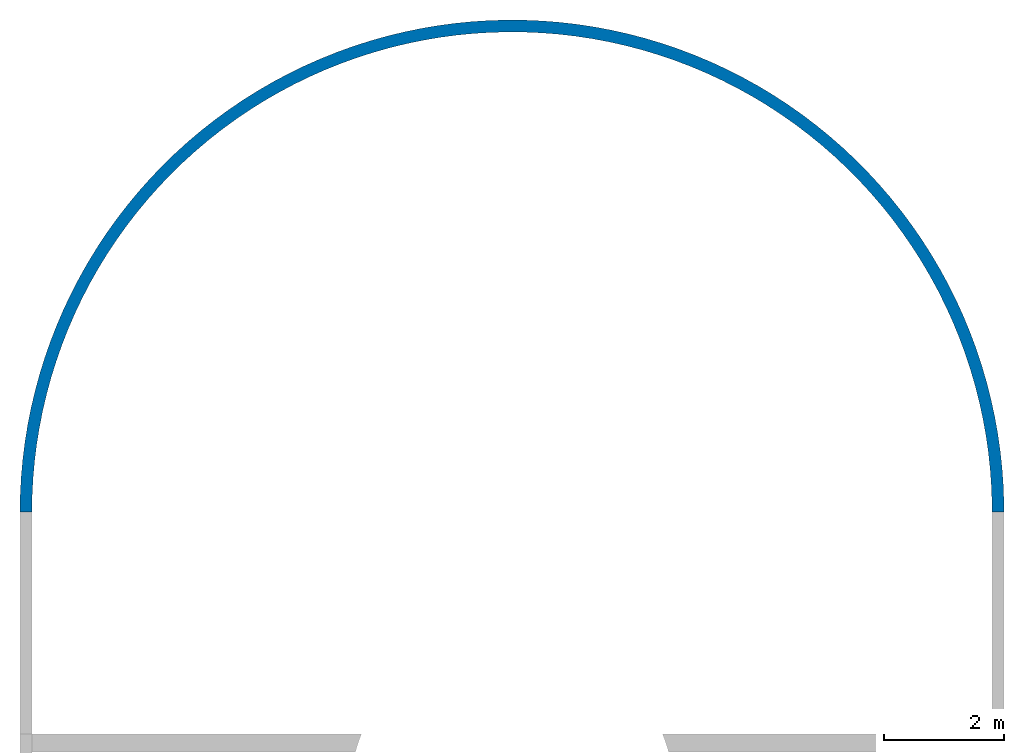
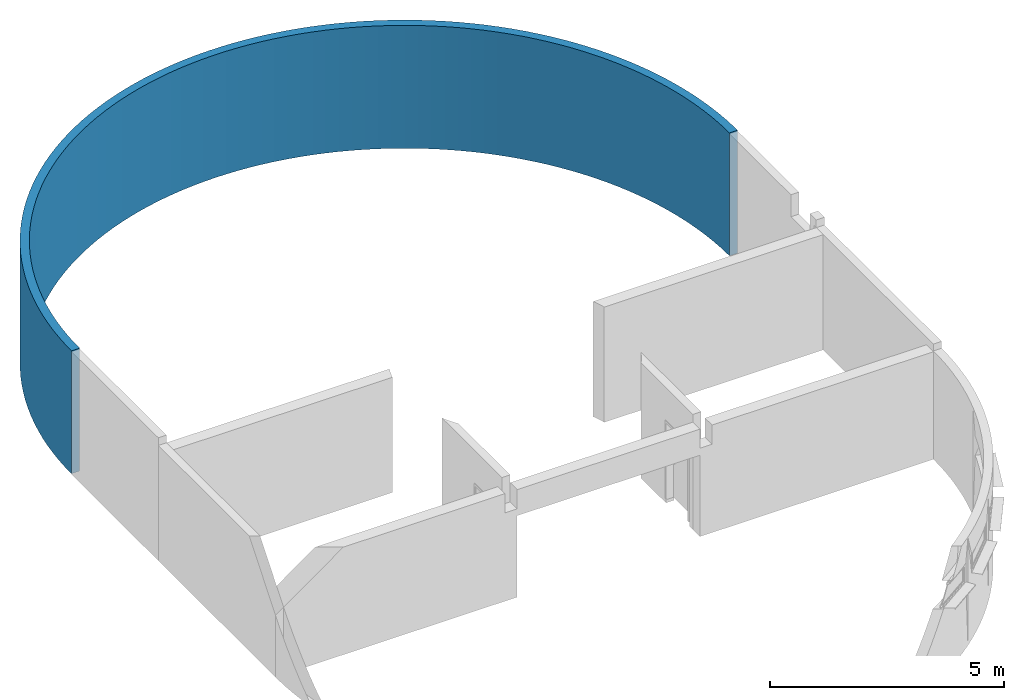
# One storey, part 6 of 6: 1 wall.
"""IFC4 building model written with IfcOpenShell, lengths in millimetres."""

from ifc_helpers import new_model, entity, si_unit, converted_unit, derived_unit, direction, frame, origin_with_axes, place, context, subcontext, project, spatial, polygons, material, constituent, constituent_set, type_object, element, save


model = new_model("IFC4")

# Units and contexts
model_context = context("Model", 3, precision=0.01, world=origin_with_axes(), true_north=direction((0.0, 1.0)))
body_context = subcontext(model_context, "Body", "Model", "MODEL_VIEW")
ifc_project = project(units=[si_unit("LENGTHUNIT", "METRE", prefix="MILLI"), si_unit("AREAUNIT", "SQUARE_METRE"), si_unit("VOLUMEUNIT", "CUBIC_METRE"), converted_unit("PLANEANGLEUNIT", "DEGREE", entity("IfcPlaneAngleMeasure", 0.0174532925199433), si_unit("PLANEANGLEUNIT", "RADIAN"), dimensions=[0, 0, 0, 0, 0, 0, 0]), converted_unit("TIMEUNIT", "Year", entity("IfcTimeMeasure", 31557600.0), si_unit("TIMEUNIT", "SECOND"), dimensions=[0, 0, 1, 0, 0, 0, 0]), si_unit("MASSUNIT", "GRAM", prefix="KILO"), si_unit("THERMODYNAMICTEMPERATUREUNIT", "DEGREE_CELSIUS"), si_unit("LUMINOUSINTENSITYUNIT", "LUMEN"), si_unit("ENERGYUNIT", "JOULE", prefix="MEGA"), derived_unit("THERMALCONDUCTANCEUNIT", [(si_unit("POWERUNIT", "WATT"), 1), (si_unit("LENGTHUNIT", "METRE"), -1), (si_unit("THERMODYNAMICTEMPERATUREUNIT", "KELVIN"), -1)]), derived_unit("SPECIFICHEATCAPACITYUNIT", [(si_unit("ENERGYUNIT", "JOULE"), 1), (si_unit("MASSUNIT", "GRAM", prefix="KILO"), -1), (si_unit("THERMODYNAMICTEMPERATUREUNIT", "KELVIN"), -1)]), derived_unit("MASSDENSITYUNIT", [(si_unit("MASSUNIT", "GRAM", prefix="KILO"), 1), (si_unit("VOLUMEUNIT", "CUBIC_METRE"), -1)])], contexts=[model_context])

# Site, building, storey
site_placement = place(None, origin_with_axes())
site = spatial("IfcSite", under=ifc_project, at=site_placement, Name="Exteriér", CompositionType="ELEMENT")
building_placement = place(site_placement, origin_with_axes())
building = spatial("IfcBuilding", under=site, at=building_placement, Name="Univerzitní lezecké centrum", CompositionType="ELEMENT")
storey_placement = place(building_placement, frame((0.0, 0.0, 6400.0), z_axis=(0.0, 0.0, 1.0), x_axis=(1.0, 0.0, 0.0)))
storey = spatial("IfcBuildingStorey", under=building, at=storey_placement, Name="3.NP", CompositionType="ELEMENT", Elevation=6400.0)

# Wall
ifc_material = material(Name="Beton vyztužený - vnější svislé kce")
ifc_constituent = constituent(ifc_material, Name="Beton vyztužený - vnější svislé kce")
ifc_constituent_set = constituent_set(constituents=[ifc_constituent], Name="!Vnější betonová stěna 200 mm")
wall_type = type_object("IfcWallType", Name="!Vnější betonová stěna 200 mm 200", PredefinedType="NOTDEFINED")
wall_placement = place(storey_placement, frame((10449.85164885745, 8399.999999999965, -100.0000000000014), z_axis=(0.0, 0.0, 1.0), x_axis=(0.0, 1.0, 0.0)))
element("IfcWall", 1, at=wall_placement, inside=storey, type_object=wall_type, material=ifc_constituent_set, Name="St01", PredefinedType="NOTDEFINED", context=body_context, shape_type="Tessellation", body=[
    polygons([(145.5579959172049, -199.9999999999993, 0.0), (145.5579959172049, -199.9999999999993, 3200.000000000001), (0.0, -199.9999999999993, 3200.000000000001), (0.0, -199.9999999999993, 0.0), (436.4905859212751, -189.6680701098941, 0.0), (436.4905859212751, -189.6680701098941, 3200.000000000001), (142.0078008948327, 0.0, 3200.000000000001), (0.0, 0.0, 3200.000000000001), (0.0, 0.0, 0.0), (142.0078008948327, 0.0, 0.0), (726.8732015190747, -169.0172284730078, 0.0), (726.8732015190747, -169.0172284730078, 3200.000000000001), (425.8444740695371, 10.07993160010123, 3200.000000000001), (425.8444740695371, 10.07993160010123, 0.0), (1016.339963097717, -138.0734949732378, 0.0), (1016.339963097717, -138.0734949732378, 3200.000000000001), (709.1445868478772, 30.227094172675, 3200.000000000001), (709.1445868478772, 30.227094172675, 0.0), (1304.526145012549, -96.87585845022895, 0.0), (1304.526145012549, -96.87585845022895, 3200.000000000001), (991.5511835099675, 60.41610246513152, 3200.000000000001), (991.5511835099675, 60.41610246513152, 0.0), (1591.068635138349, -45.47622757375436, 0.0), (1591.068635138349, -45.47622757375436, 3200.000000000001), (1272.708434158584, 100.6089185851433, 3200.000000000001), (1272.708434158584, 100.6089185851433, 0.0), (1875.606392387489, 16.06063456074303, 0.0), (1875.606392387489, 16.06063456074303, 3200.000000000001), (1552.262083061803, 150.7548999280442, 3200.000000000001), (1552.262083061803, 150.7548999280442, 0.0), (2157.780901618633, 87.65719203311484, 0.0), (2157.780901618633, 87.65719203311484, 3200.000000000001), (1829.859895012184, 210.7908629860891, 3200.000000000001), (1829.859895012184, 210.7908629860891, 0.0), (2437.236625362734, 169.2232337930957, 0.0), (2437.236625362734, 169.2232337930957, 3200.000000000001), (2105.152099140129, 280.6411629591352, 3200.000000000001), (2105.152099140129, 280.6411629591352, 0.0), (2713.621451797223, 260.6559873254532, 0.0), (2713.621451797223, 260.6559873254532, 3200.000000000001), (2377.791829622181, 360.217789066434, 3200.000000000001), (2377.791829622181, 360.217789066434, 0.0), (2986.587138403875, 361.8402481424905, 0.0), (2986.587138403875, 361.8402481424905, 3200.000000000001), (2647.435562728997, 449.4204754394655, 3200.000000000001), (2647.435562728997, 449.4204754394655, 0.0), (3255.78975075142, 472.6485249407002, 0.0), (3255.78975075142, 472.6485249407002, 3200.000000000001), (2913.743549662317, 548.1368274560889, 3200.000000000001), (2913.743549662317, 548.1368274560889, 0.0), (3520.890095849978, 592.9412002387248, 0.0), (3520.890095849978, 592.9412002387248, 3200.000000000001), (3176.380244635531, 656.2424633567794, 3200.000000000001), (3176.380244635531, 656.2424633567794, 0.0), (3781.554149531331, 722.5667062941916, 0.0), (3781.554149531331, 722.5667062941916, 3200.000000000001), (3435.014727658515, 773.6011709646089, 3200.000000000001), (3435.014727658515, 773.6011709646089, 0.0), (4037.453477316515, 861.3617160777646, 0.0), (4037.453477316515, 861.3617160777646, 3200.000000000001), (3689.321121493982, 900.0650793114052, 3200.000000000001), (3689.321121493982, 900.0650793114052, 0.0), (4288.265648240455, 1009.151349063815, 0.0), (4288.265648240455, 1009.151349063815, 3200.000000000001), (3938.979002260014, 1035.474844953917, 3200.000000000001), (3938.979002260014, 1035.474844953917, 0.0), (4533.674641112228, 1165.749391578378, 0.0), (4533.674641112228, 1165.749391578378, 3200.000000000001), (4183.673803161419, 1179.659852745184, 3200.000000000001), (4183.673803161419, 1179.659852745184, 0.0), (4773.371242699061, 1330.958531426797, 0.0), (4773.371242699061, 1330.958531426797, 3200.000000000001), (4423.097210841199, 1332.438430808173, 3200.000000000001), (4423.097210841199, 1332.438430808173, 0.0), (5007.053437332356, 1504.570606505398, 0.0), (5007.053437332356, 1504.570606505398, 3200.000000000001), (4656.947553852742, 1493.618079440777, 3200.000000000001), (4656.947553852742, 1493.618079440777, 0.0), (5234.426787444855, 1686.366867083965, 0.0), (5234.426787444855, 1686.366867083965, 3200.000000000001), (4884.930182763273, 1662.995713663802, 3200.000000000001), (4884.930182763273, 1662.995713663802, 0.0), (5455.204804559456, 1876.118251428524, 0.0), (5455.204804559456, 1876.118251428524, 3200.000000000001), (5106.757841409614, 1840.357919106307, 3200.000000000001), (5106.757841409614, 1840.357919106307, 0.0), (5669.109310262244, 2073.585674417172, 0.0), (5669.109310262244, 2073.585674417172, 3200.000000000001), (5322.151028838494, 2025.481220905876, 3200.000000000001), (5322.151028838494, 2025.481220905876, 0.0), (5875.870786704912, 2278.520328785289, 0.0), (5875.870786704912, 2278.520328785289, 3200.000000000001), (5530.838351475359, 2218.132365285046, 3200.000000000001), (5530.838351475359, 2218.132365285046, 0.0), (6075.228716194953, 2490.663998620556, 0.0), (6075.228716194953, 2490.663998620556, 3200.000000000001), (5732.556865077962, 2418.06861344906, 3200.000000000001), (5732.556865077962, 2418.06861344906, 0.0), (6266.931909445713, 2709.749384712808, 0.0), (6266.931909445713, 2709.749384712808, 3200.000000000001), (5927.052406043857, 2625.038047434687, 3200.000000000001), (5927.052406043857, 2625.038047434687, 0.0), (6450.738822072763, 2935.50044134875, 0.0), (6450.738822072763, 2935.50044134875, 3200.000000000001), (6114.079911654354, 2838.779887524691, 3200.000000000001), (6114.079911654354, 2838.779887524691, 0.0), (6626.417858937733, 3167.632724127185, 0.0), (6626.417858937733, 3167.632724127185, 3200.000000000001), (6293.403728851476, 3059.024820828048, 3200.000000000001), (6293.403728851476, 3059.024820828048, 0.0), (6793.747665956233, 3405.853748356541, 0.0), (6793.747665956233, 3405.853748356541, 3200.000000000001), (6464.797911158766, 3285.495340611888, 3200.000000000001), (6464.797911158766, 3285.495340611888, 0.0), (6952.51740900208, 3649.863357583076, 0.0), (6952.51740900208, 3649.863357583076, 3200.000000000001), (6628.046503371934, 3517.906095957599, 3200.000000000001), (6628.046503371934, 3517.906095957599, 0.0), (7102.52703955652, 3899.354101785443, 0.0), (7102.52703955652, 3899.354101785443, 3200.000000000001), (6782.943813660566, 3755.964251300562, 3200.000000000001), (6782.943813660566, 3755.964251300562, 0.0), (7243.587546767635, 4154.011624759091, 0.0), (7243.587546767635, 4154.011624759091, 3200.000000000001), (6929.29467273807, 3999.369855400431, 3200.000000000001), (6929.29467273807, 3999.369855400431, 0.0), (7375.521195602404, 4413.51506020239, 0.0), (7375.521195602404, 4413.51506020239, 3200.000000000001), (7066.914679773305, 4247.816219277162, 3200.000000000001), (7066.914679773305, 4247.816219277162, 0.0), (7498.161750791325, 4677.537436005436, 0.0), (7498.161750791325, 4677.537436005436, 3200.000000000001), (7195.630434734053, 4500.990302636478, 3200.000000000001), (7195.630434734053, 4500.990302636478, 0.0), (7611.354686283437, 4945.746086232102, 0.0), (7611.354686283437, 4945.746086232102, 3200.000000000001), (7315.279756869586, 4758.573108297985, 3200.000000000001), (7315.279756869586, 4758.573108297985, 0.0), (7714.957379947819, 5217.803070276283, 0.0), (7714.957379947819, 5217.803070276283, 3200.000000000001), (7425.711889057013, 5020.240084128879, 3200.000000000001), (7425.711889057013, 5020.240084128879, 0.0), (7808.83929327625, 5493.365598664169, 0.0), (7808.83929327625, 5493.365598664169, 3200.000000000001), (7526.78768775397, 5285.66153197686, 3200.000000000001), (7526.78768775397, 5285.66153197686, 0.0), (7892.882135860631, 5772.086464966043, 0.0), (7892.882135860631, 5772.086464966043, 3200.000000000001), (7618.379798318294, 5554.503023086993, 3200.000000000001), (7618.379798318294, 5554.503023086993, 0.0), (7966.980014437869, 6053.614483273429, 0.0), (7966.980014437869, 6053.614483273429, 3200.000000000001), (7700.372815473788, 5826.425819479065, 3200.000000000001), (7700.372815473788, 5826.425819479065, 0.0), (8031.039566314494, 6337.59493069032, 0.0), (8031.039566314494, 6337.59493069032, 3200.000000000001), (7772.66342871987, 6101.087300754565, 3200.000000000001), (7772.66342871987, 6101.087300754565, 0.0), (8084.980077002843, 6623.669994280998, 0.0), (8084.980077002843, 6623.669994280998, 3200.000000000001), (7835.160552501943, 6378.141395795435, 3200.000000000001), (7835.160552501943, 6378.141395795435, 0.0), (8128.733581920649, 6911.479221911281, 0.0), (8128.733581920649, 6911.479221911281, 3200.000000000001), (7887.785440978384, 6657.23901881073, 3200.000000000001), (7887.785440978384, 6657.23901881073, 0.0), (8162.244952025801, 7200.659976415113, 0.0), (8162.244952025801, 7200.659976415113, 3200.000000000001), (7930.471787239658, 6938.028509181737, 3200.000000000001), (7930.471787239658, 6938.028509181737, 0.0), (8185.471963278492, 7490.847892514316, 0.0), (8185.471963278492, 7490.847892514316, 3200.000000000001), (7963.165806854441, 7220.15607455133, 3200.000000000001), (7963.165806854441, 7220.15607455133, 0.0), (8198.385349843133, 7781.677335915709, 0.0), (8198.385349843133, 7781.677335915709, 3200.000000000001), (7985.826305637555, 7503.266236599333, 3200.000000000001), (7985.826305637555, 7503.266236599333, 0.0), (8200.96884096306, 8072.78186400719, 0.0), (8200.96884096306, 8072.78186400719, 3200.000000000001), (7998.424731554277, 7787.002278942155, 3200.000000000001), (7998.424731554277, 7787.002278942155, 0.0), (8193.219181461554, 8363.794687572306, 0.0), (8193.219181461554, 8363.794687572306, 3200.000000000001), (8000.945210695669, 8071.006696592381, 3200.000000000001), (8000.945210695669, 8071.006696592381, 0.0), (8175.146135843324, 8654.349132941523, 0.0), (8175.146135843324, 8654.349132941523, 3200.000000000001), (7993.384567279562, 8354.921646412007, 3200.000000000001), (7993.384567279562, 8354.921646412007, 0.0), (8146.77247599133, 8944.07910399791, 0.0), (8146.77247599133, 8944.07910399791, 3200.000000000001), (7975.752327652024, 8638.38939799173, 3200.000000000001), (7975.752327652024, 8638.38939799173, 0.0), (8108.133952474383, 9232.619543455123, 0.0), (8108.133952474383, 9232.619543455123, 3200.000000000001), (7948.070708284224, 8921.052784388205, 3200.000000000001), (7948.070708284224, 8921.052784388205, 0.0), (8059.27924950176, 9519.606892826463, 0.0), (8059.27924950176, 9519.606892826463, 3200.000000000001), (7910.374587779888, 9202.555652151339, 3200.000000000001), (7910.374587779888, 9202.555652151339, 0.0), (8000.269923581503, 9804.679550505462, 0.0), (8000.269923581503, 9804.679550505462, 3200.000000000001), (7862.711462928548, 9482.543310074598, 3200.000000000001), (7862.711462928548, 9482.543310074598, 0.0), (7931.180325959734, 10087.47832738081, 0.0), (7931.180325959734, 10087.47832738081, 3200.000000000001), (7805.141388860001, 9760.662976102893, 3200.000000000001), (7805.141388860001, 9760.662976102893, 0.0), (7852.097508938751, 10367.64689941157, 0.0), (7852.097508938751, 10367.64689941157, 3200.000000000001), (7737.736903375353, 10036.56422183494, 3200.000000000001), (7737.736903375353, 10036.56422183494, 0.0), (7763.121116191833, 10644.83225659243, 0.0), (7763.121116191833, 10644.83225659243, 3200.000000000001), (7660.58293555, 10309.89941406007, 3200.000000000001), (7660.58293555, 10309.89941406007, 0.0), (7664.363257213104, 10918.68514774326, 0.0), (7664.363257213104, 10918.68514774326, 3200.000000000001), (7573.776698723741, 10580.3241527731, 3200.000000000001), (7573.776698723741, 10580.3241527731, 0.0), (7555.948366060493, 11188.86052056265, 0.0), (7555.948366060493, 11188.86052056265, 3200.000000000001), (7477.427568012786, 10847.49770511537, 3200.000000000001), (7477.427568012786, 10847.49770511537, 0.0), (7438.013044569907, 11455.01795639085, 0.0), (7438.013044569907, 11455.01795639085, 3200.000000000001), (7371.656942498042, 11111.08343469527, 3200.000000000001), (7371.656942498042, 11111.08343469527, 0.0), (7310.70589023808, 11716.82209913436, 0.0), (7310.70589023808, 11716.82209913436, 3200.000000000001), (7256.598092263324, 11370.74922574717, 3200.000000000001), (7256.598092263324, 11370.74922574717, 0.0), (7174.187308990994, 11973.94307781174, 0.0), (7174.187308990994, 11973.94307781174, 3200.000000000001), (7132.395990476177, 11626.1679015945, 3200.000000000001), (7132.395990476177, 11626.1679015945, 0.0), (7028.629313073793, 12226.05692218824, 0.0), (7028.629313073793, 12226.05692218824, 3200.000000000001), (6999.207130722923, 11877.0176368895, 3200.000000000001), (6999.207130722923, 11877.0176368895, 0.0), (6874.215304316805, 12472.84597097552, 0.0), (6874.215304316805, 12472.84597097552, 3200.000000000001), (6857.199329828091, 12122.98236311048, 3200.000000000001), (6857.199329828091, 12122.98236311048, 0.0), (6711.139843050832, 12713.99927208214, 0.0), (6711.139843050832, 12713.99927208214, 3200.000000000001), (6706.551516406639, 12363.75216680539, 3200.000000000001), (6706.551516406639, 12363.75216680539, 0.0), (6539.608402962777, 12949.21297441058, 0.0), (6539.608402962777, 12949.21297441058, 3200.000000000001), (6547.453505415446, 12599.02368008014, 3200.000000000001), (6547.453505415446, 12599.02368008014, 0.0), (6359.837112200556, 13178.19071070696, 0.0), (6359.837112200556, 13178.19071070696, 3200.000000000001), (6380.105758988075, 12828.50046283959, 3200.000000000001), (6380.105758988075, 12828.50046283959, 0.0), (6172.052481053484, 13400.64397098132, 0.0), (6172.052481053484, 13400.64397098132, 3200.000000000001), (6204.719133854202, 13051.89337629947, 3200.000000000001), (6204.719133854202, 13051.89337629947, 0.0), (5976.491116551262, 13616.29246602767, 0.0), (5976.491116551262, 13616.29246602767, 3200.000000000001), (6021.514615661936, 13268.92094729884, 3200.000000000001), (6021.514615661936, 13268.92094729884, 0.0), (5773.399424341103, 13824.86448058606, 0.0), (5773.399424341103, 13824.86448058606, 3200.000000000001), (5830.723040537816, 13479.30972295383, 3200.000000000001), (5830.723040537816, 13479.30972295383, 0.0), (5563.033298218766, 14026.09721570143, 0.0), (5563.033298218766, 14026.09721570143, 3200.000000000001), (5632.584804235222, 13682.79461520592, 3200.000000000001), (5632.584804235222, 13682.79461520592, 0.0), (5345.657797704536, 14219.73711984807, 0.0), (5345.657797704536, 14219.73711984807, 3200.000000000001), (5427.34955923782, 13879.11923483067, 3200.000000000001), (5427.34955923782, 13879.11923483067, 0.0), (5121.546814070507, 14405.54020840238, 0.0), (5121.546814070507, 14405.54020840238, 3200.000000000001), (5215.275900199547, 14068.03621448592, 3200.000000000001), (5215.275900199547, 14068.03621448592, 0.0), (4890.982725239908, 14583.27237106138, 0.0), (4890.982725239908, 14583.27237106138, 3200.000000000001), (4996.63103811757, 14249.30752039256, 3200.000000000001), (4996.63103811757, 14249.30752039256, 0.0), (4654.256039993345, 14752.70966681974, 0.0), (4654.256039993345, 14752.70966681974, 3200.000000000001), (4771.690463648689, 14422.704752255, 3200.000000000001), (4771.690463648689, 14422.704752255, 0.0), (4411.665031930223, 14913.63860613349, 0.0), (4411.665031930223, 14913.63860613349, 3200.000000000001), (4540.737599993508, 14588.00943104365, 3200.000000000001), (4540.737599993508, 14588.00943104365, 0.0), (4163.515363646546, 15065.85641991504, 0.0), (4163.515363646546, 15065.85641991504, 3200.000000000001), (4304.063445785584, 14745.01327427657, 3200.000000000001), (4304.063445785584, 14745.01327427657, 0.0), (3910.119701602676, 15209.17131502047, 0.0), (3910.119701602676, 15209.17131502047, 3200.000000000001), (4061.966208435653, 14893.51845845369, 3200.000000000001), (4061.966208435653, 14893.51845845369, 0.0), (3651.797322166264, 15343.40271590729, 0.0), (3651.797322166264, 15343.40271590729, 3200.000000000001), (3814.750928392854, 15033.33786831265, 3200.000000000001), (3814.750928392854, 15033.33786831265, 0.0), (3388.873709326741, 15468.38149215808, 0.0), (3388.873709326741, 15468.38149215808, 3200.000000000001), (3562.729094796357, 15164.29533259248, 3200.000000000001), (3562.729094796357, 15164.29533259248, 0.0), (3121.680144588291, 15583.95017158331, 0.0), (3121.680144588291, 15583.95017158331, 3200.000000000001), (3306.218253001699, 15286.22584600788, 3200.000000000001), (3306.218253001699, 15286.22584600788, 0.0), (2850.553289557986, 15689.96313863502, 0.0), (2850.553289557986, 15689.96313863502, 3200.000000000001), (3045.541604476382, 15398.97577715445, 3200.000000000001), (3045.541604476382, 15398.97577715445, 0.0), (2575.834761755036, 15786.28681788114, 0.0), (2575.834761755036, 15786.28681788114, 3200.000000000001), (2781.027599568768, 15502.40306208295, 3200.000000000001), (2781.027599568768, 15502.40306208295, 0.0), (2297.870704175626, 15872.79984230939, 0.0), (2297.870704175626, 15872.79984230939, 3200.000000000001), (2513.009523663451, 15596.37738329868, 3200.000000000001), (2513.009523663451, 15596.37738329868, 0.0), (2017.011349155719, 15949.39320624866, 0.0), (2017.011349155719, 15949.39320624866, 3200.000000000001), (2241.825077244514, 15680.78033396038, 3200.000000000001), (2241.825077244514, 15680.78033396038, 0.0), (1733.610577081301, 16015.97040271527, 0.0), (1733.610577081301, 16015.97040271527, 3200.000000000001), (1967.815950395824, 15755.50556707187, 3200.000000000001), (1967.815950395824, 15755.50556707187, 0.0), (1448.025470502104, 16072.44754501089, 0.0), (1448.025470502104, 16072.44754501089, 3200.000000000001), (1691.32739227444, 15820.45892947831, 3200.000000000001), (1691.32739227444, 15820.45892947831, 0.0), (1160.615864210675, 16118.75347241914, 0.0), (1160.615864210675, 16118.75347241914, 3200.000000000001), (1412.707776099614, 15875.55858049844, 3200.000000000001), (1412.707776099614, 15875.55858049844, 0.0), (871.743891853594, 16154.82983986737, 0.0), (871.743891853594, 16154.82983986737, 3200.000000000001), (1132.308160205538, 15920.73509504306, 3200.000000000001), (1132.308160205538, 15920.73509504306, 0.0), (581.7735296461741, 16180.63119144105, 0.0), (581.7735296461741, 16180.63119144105, 3200.000000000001), (850.4818457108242, 15955.93155109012, 3200.000000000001), (850.4818457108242, 15955.93155109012, 0.0), (291.0701377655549, 16196.12501765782, 0.0), (291.0701377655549, 16196.12501765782, 3200.000000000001), (567.5839313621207, 15981.10360140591, 3200.000000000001), (567.5839313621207, 15981.10360140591, 0.0), (0.0, 16199.99999999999, 0.0), (0.0, 16199.99999999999, 3200.000000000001), (283.9708661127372, 15996.21952942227, 3200.000000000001), (283.9708661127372, 15996.21952942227, 0.0), (0.0, 15999.99999999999, 0.0), (0.0, 15999.99999999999, 3200.000000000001)], [[[1, 2, 3, 4]], [[5, 6, 2, 1]], [[2, 7, 8, 3]], [[4, 3, 8, 9]], [[10, 1, 4, 9]], [[11, 12, 6, 5]], [[6, 13, 7, 2]], [[14, 5, 1, 10]], [[7, 10, 9, 8]], [[15, 16, 12, 11]], [[12, 17, 13, 6]], [[18, 11, 5, 14]], [[13, 14, 10, 7]], [[19, 20, 16, 15]], [[16, 21, 17, 12]], [[22, 15, 11, 18]], [[17, 18, 14, 13]], [[23, 24, 20, 19]], [[20, 25, 21, 16]], [[26, 19, 15, 22]], [[21, 22, 18, 17]], [[27, 28, 24, 23]], [[24, 29, 25, 20]], [[30, 23, 19, 26]], [[25, 26, 22, 21]], [[31, 32, 28, 27]], [[28, 33, 29, 24]], [[34, 27, 23, 30]], [[29, 30, 26, 25]], [[35, 36, 32, 31]], [[32, 37, 33, 28]], [[38, 31, 27, 34]], [[33, 34, 30, 29]], [[39, 40, 36, 35]], [[36, 41, 37, 32]], [[42, 35, 31, 38]], [[37, 38, 34, 33]], [[43, 44, 40, 39]], [[40, 45, 41, 36]], [[46, 39, 35, 42]], [[41, 42, 38, 37]], [[47, 48, 44, 43]], [[44, 49, 45, 40]], [[50, 43, 39, 46]], [[45, 46, 42, 41]], [[51, 52, 48, 47]], [[48, 53, 49, 44]], [[54, 47, 43, 50]], [[49, 50, 46, 45]], [[55, 56, 52, 51]], [[52, 57, 53, 48]], [[58, 51, 47, 54]], [[53, 54, 50, 49]], [[59, 60, 56, 55]], [[56, 61, 57, 52]], [[62, 55, 51, 58]], [[57, 58, 54, 53]], [[63, 64, 60, 59]], [[60, 65, 61, 56]], [[66, 59, 55, 62]], [[61, 62, 58, 57]], [[67, 68, 64, 63]], [[64, 69, 65, 60]], [[70, 63, 59, 66]], [[65, 66, 62, 61]], [[71, 72, 68, 67]], [[68, 73, 69, 64]], [[74, 67, 63, 70]], [[69, 70, 66, 65]], [[75, 76, 72, 71]], [[72, 77, 73, 68]], [[78, 71, 67, 74]], [[73, 74, 70, 69]], [[79, 80, 76, 75]], [[76, 81, 77, 72]], [[82, 75, 71, 78]], [[77, 78, 74, 73]], [[83, 84, 80, 79]], [[80, 85, 81, 76]], [[86, 79, 75, 82]], [[81, 82, 78, 77]], [[87, 88, 84, 83]], [[84, 89, 85, 80]], [[90, 83, 79, 86]], [[85, 86, 82, 81]], [[91, 92, 88, 87]], [[88, 93, 89, 84]], [[94, 87, 83, 90]], [[89, 90, 86, 85]], [[95, 96, 92, 91]], [[92, 97, 93, 88]], [[98, 91, 87, 94]], [[93, 94, 90, 89]], [[99, 100, 96, 95]], [[96, 101, 97, 92]], [[102, 95, 91, 98]], [[97, 98, 94, 93]], [[103, 104, 100, 99]], [[100, 105, 101, 96]], [[106, 99, 95, 102]], [[101, 102, 98, 97]], [[107, 108, 104, 103]], [[104, 109, 105, 100]], [[110, 103, 99, 106]], [[105, 106, 102, 101]], [[111, 112, 108, 107]], [[108, 113, 109, 104]], [[114, 107, 103, 110]], [[109, 110, 106, 105]], [[115, 116, 112, 111]], [[112, 117, 113, 108]], [[118, 111, 107, 114]], [[113, 114, 110, 109]], [[119, 120, 116, 115]], [[116, 121, 117, 112]], [[122, 115, 111, 118]], [[117, 118, 114, 113]], [[123, 124, 120, 119]], [[120, 125, 121, 116]], [[126, 119, 115, 122]], [[121, 122, 118, 117]], [[127, 128, 124, 123]], [[124, 129, 125, 120]], [[130, 123, 119, 126]], [[125, 126, 122, 121]], [[131, 132, 128, 127]], [[128, 133, 129, 124]], [[134, 127, 123, 130]], [[129, 130, 126, 125]], [[135, 136, 132, 131]], [[132, 137, 133, 128]], [[138, 131, 127, 134]], [[133, 134, 130, 129]], [[139, 140, 136, 135]], [[136, 141, 137, 132]], [[142, 135, 131, 138]], [[137, 138, 134, 133]], [[143, 144, 140, 139]], [[140, 145, 141, 136]], [[146, 139, 135, 142]], [[141, 142, 138, 137]], [[147, 148, 144, 143]], [[144, 149, 145, 140]], [[150, 143, 139, 146]], [[145, 146, 142, 141]], [[151, 152, 148, 147]], [[148, 153, 149, 144]], [[154, 147, 143, 150]], [[149, 150, 146, 145]], [[155, 156, 152, 151]], [[152, 157, 153, 148]], [[158, 151, 147, 154]], [[153, 154, 150, 149]], [[159, 160, 156, 155]], [[156, 161, 157, 152]], [[162, 155, 151, 158]], [[157, 158, 154, 153]], [[163, 164, 160, 159]], [[160, 165, 161, 156]], [[166, 159, 155, 162]], [[161, 162, 158, 157]], [[167, 168, 164, 163]], [[164, 169, 165, 160]], [[170, 163, 159, 166]], [[165, 166, 162, 161]], [[171, 172, 168, 167]], [[168, 173, 169, 164]], [[174, 167, 163, 170]], [[169, 170, 166, 165]], [[175, 176, 172, 171]], [[172, 177, 173, 168]], [[178, 171, 167, 174]], [[173, 174, 170, 169]], [[179, 180, 176, 175]], [[176, 181, 177, 172]], [[182, 175, 171, 178]], [[177, 178, 174, 173]], [[183, 184, 180, 179]], [[180, 185, 181, 176]], [[186, 179, 175, 182]], [[181, 182, 178, 177]], [[187, 188, 184, 183]], [[184, 189, 185, 180]], [[190, 183, 179, 186]], [[185, 186, 182, 181]], [[191, 192, 188, 187]], [[188, 193, 189, 184]], [[194, 187, 183, 190]], [[189, 190, 186, 185]], [[195, 196, 192, 191]], [[192, 197, 193, 188]], [[198, 191, 187, 194]], [[193, 194, 190, 189]], [[199, 200, 196, 195]], [[196, 201, 197, 192]], [[202, 195, 191, 198]], [[197, 198, 194, 193]], [[203, 204, 200, 199]], [[200, 205, 201, 196]], [[206, 199, 195, 202]], [[201, 202, 198, 197]], [[207, 208, 204, 203]], [[204, 209, 205, 200]], [[210, 203, 199, 206]], [[205, 206, 202, 201]], [[211, 212, 208, 207]], [[208, 213, 209, 204]], [[214, 207, 203, 210]], [[209, 210, 206, 205]], [[215, 216, 212, 211]], [[212, 217, 213, 208]], [[218, 211, 207, 214]], [[213, 214, 210, 209]], [[219, 220, 216, 215]], [[216, 221, 217, 212]], [[222, 215, 211, 218]], [[217, 218, 214, 213]], [[223, 224, 220, 219]], [[220, 225, 221, 216]], [[226, 219, 215, 222]], [[221, 222, 218, 217]], [[227, 228, 224, 223]], [[224, 229, 225, 220]], [[230, 223, 219, 226]], [[225, 226, 222, 221]], [[231, 232, 228, 227]], [[228, 233, 229, 224]], [[234, 227, 223, 230]], [[229, 230, 226, 225]], [[235, 236, 232, 231]], [[232, 237, 233, 228]], [[238, 231, 227, 234]], [[233, 234, 230, 229]], [[239, 240, 236, 235]], [[236, 241, 237, 232]], [[242, 235, 231, 238]], [[237, 238, 234, 233]], [[243, 244, 240, 239]], [[240, 245, 241, 236]], [[246, 239, 235, 242]], [[241, 242, 238, 237]], [[247, 248, 244, 243]], [[244, 249, 245, 240]], [[250, 243, 239, 246]], [[245, 246, 242, 241]], [[251, 252, 248, 247]], [[248, 253, 249, 244]], [[254, 247, 243, 250]], [[249, 250, 246, 245]], [[255, 256, 252, 251]], [[252, 257, 253, 248]], [[258, 251, 247, 254]], [[253, 254, 250, 249]], [[259, 260, 256, 255]], [[256, 261, 257, 252]], [[262, 255, 251, 258]], [[257, 258, 254, 253]], [[263, 264, 260, 259]], [[260, 265, 261, 256]], [[266, 259, 255, 262]], [[261, 262, 258, 257]], [[267, 268, 264, 263]], [[264, 269, 265, 260]], [[270, 263, 259, 266]], [[265, 266, 262, 261]], [[271, 272, 268, 267]], [[268, 273, 269, 264]], [[274, 267, 263, 270]], [[269, 270, 266, 265]], [[275, 276, 272, 271]], [[272, 277, 273, 268]], [[278, 271, 267, 274]], [[273, 274, 270, 269]], [[279, 280, 276, 275]], [[276, 281, 277, 272]], [[282, 275, 271, 278]], [[277, 278, 274, 273]], [[283, 284, 280, 279]], [[280, 285, 281, 276]], [[286, 279, 275, 282]], [[281, 282, 278, 277]], [[287, 288, 284, 283]], [[284, 289, 285, 280]], [[290, 283, 279, 286]], [[285, 286, 282, 281]], [[291, 292, 288, 287]], [[288, 293, 289, 284]], [[294, 287, 283, 290]], [[289, 290, 286, 285]], [[295, 296, 292, 291]], [[292, 297, 293, 288]], [[298, 291, 287, 294]], [[293, 294, 290, 289]], [[299, 300, 296, 295]], [[296, 301, 297, 292]], [[302, 295, 291, 298]], [[297, 298, 294, 293]], [[303, 304, 300, 299]], [[300, 305, 301, 296]], [[306, 299, 295, 302]], [[301, 302, 298, 297]], [[307, 308, 304, 303]], [[304, 309, 305, 300]], [[310, 303, 299, 306]], [[305, 306, 302, 301]], [[311, 312, 308, 307]], [[308, 313, 309, 304]], [[314, 307, 303, 310]], [[309, 310, 306, 305]], [[315, 316, 312, 311]], [[312, 317, 313, 308]], [[318, 311, 307, 314]], [[313, 314, 310, 309]], [[319, 320, 316, 315]], [[316, 321, 317, 312]], [[322, 315, 311, 318]], [[317, 318, 314, 313]], [[323, 324, 320, 319]], [[320, 325, 321, 316]], [[326, 319, 315, 322]], [[321, 322, 318, 317]], [[327, 328, 324, 323]], [[324, 329, 325, 320]], [[330, 323, 319, 326]], [[325, 326, 322, 321]], [[331, 332, 328, 327]], [[328, 333, 329, 324]], [[334, 327, 323, 330]], [[329, 330, 326, 325]], [[335, 336, 332, 331]], [[332, 337, 333, 328]], [[338, 331, 327, 334]], [[333, 334, 330, 329]], [[339, 340, 336, 335]], [[336, 341, 337, 332]], [[342, 335, 331, 338]], [[337, 338, 334, 333]], [[343, 344, 340, 339]], [[340, 345, 341, 336]], [[346, 339, 335, 342]], [[341, 342, 338, 337]], [[347, 348, 344, 343]], [[344, 349, 345, 340]], [[350, 343, 339, 346]], [[345, 346, 342, 341]], [[351, 352, 348, 347]], [[348, 353, 349, 344]], [[354, 347, 343, 350]], [[349, 350, 346, 345]], [[355, 356, 352, 351]], [[352, 357, 353, 348]], [[358, 351, 347, 354]], [[353, 354, 350, 349]], [[355, 359, 360, 356]], [[356, 360, 357, 352]], [[359, 355, 351, 358]], [[357, 358, 354, 353]], [[360, 359, 358, 357]]], closed=True),
])

save(model, "model.ifc")
